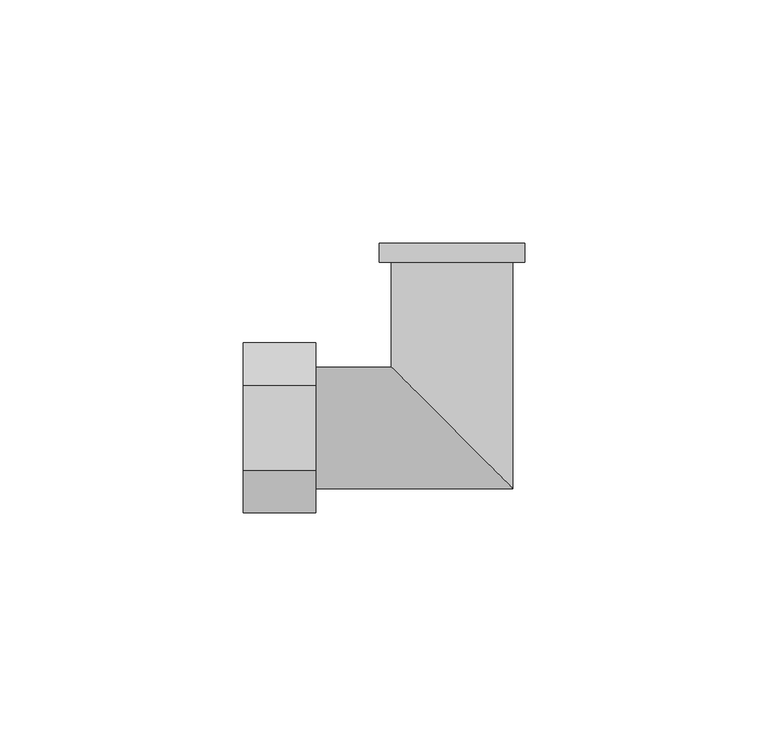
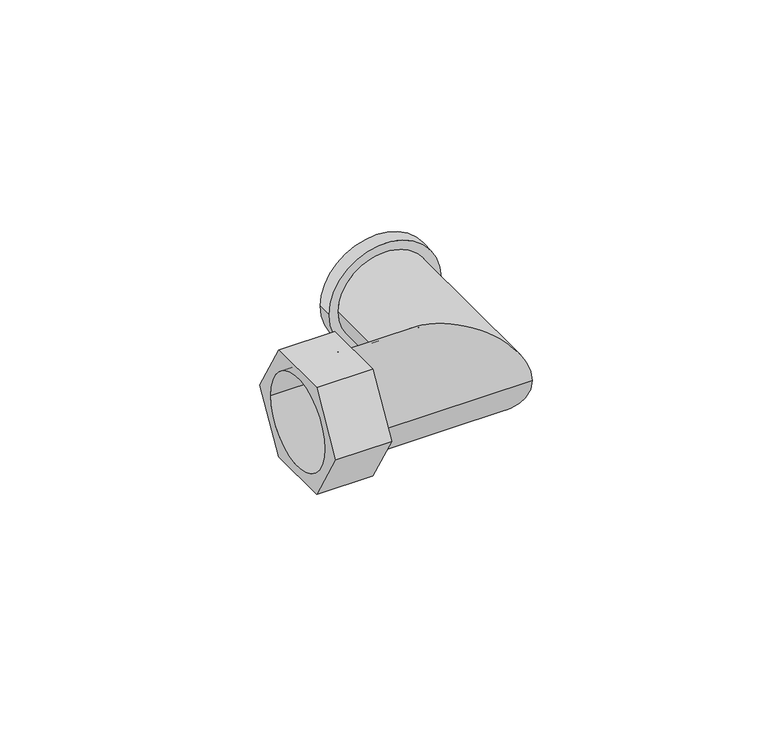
"""IFC4 building model written with IfcOpenShell, lengths in millimetres: pipe fitting geometry, БИР ПЕКС_КМП_Угольник_Резьба_Наружная : Угольник с наружной резьбой_КМП."""

from ifc_helpers import new_model, si_unit, point, frame, origin, origin_2d, place, context, project, spatial, polyline, circle_curve, ellipse_curve, trimmed, segment, composite_curve, outline, extrude, source, transform, mapped, element, save
from ifc_brep_helpers import plane_surface, cylinder_surface, revolved_surface, advanced_brep


def pipe_fitting_07bd043f(model_context):
    return source(origin(), model_context, "Body", "SolidModel", [
        extrude(outline(polyline([(-8.75, -15.1554446), (-17.5, 0.0), (-8.75, 15.1554446), (8.75, 15.1554446), (17.5, 0.0), (8.75, -15.1554446), (-8.75, -15.1554446)]), holes=[composite_curve([segment(trimmed(circle_curve(origin_2d(), 12.5), [point((-12.5, 0.0))], [point((12.5, 0.0))], True, "CARTESIAN"), True, "CONTINUOUS"), segment(trimmed(circle_curve(origin_2d(), 12.5), [point((12.5, 0.0))], [point((-12.5, 0.0))], True, "CARTESIAN"), True, "CONTINUOUS")], self_intersect=False)]), frame((-43.0, 0.0, 0.0), z_axis=(1.0, 0.0, 0.0), x_axis=(0.0, 1.0, 0.0)), (0.0, 0.0, 1.0), 15.0),
        advanced_brep(
        [(-28.0, -12.5, 0.0), (-28.0, 12.5, 0.0), (-28.0, -12.0, 0.0), (-28.0, 12.0, 0.0), (12.5, -12.5, 0.0), (-12.5, 12.5, 0.0), (-15.0, 38.0, 0.0), (15.0, 38.0, 0.0), (12.0, 38.0, 0.0), (-12.0, 38.0, 0.0), (12.5, 34.0, 0.0), (-12.5, 34.0, 0.0), (-15.0, 34.0, 0.0), (15.0, 34.0, 0.0), (12.0, -12.0, 0.0), (-12.0, 12.0, 0.0), (-12.0, 34.0, 0.0), (12.0, 34.0, 0.0)],
        [
            (0, 1, circle_curve(frame((-28.0, 0.0, 0.0), z_axis=(-1.0, 0.0, 0.0), x_axis=(0.0, 1.0, 0.0)), 12.5)),
            (1, 0, circle_curve(frame((-28.0, 0.0, 0.0), z_axis=(-1.0, 0.0, 0.0), x_axis=(0.0, 1.0, 0.0)), 12.5)),
            (2, 3, circle_curve(frame((-28.0, 0.0, 0.0), z_axis=(1.0, 0.0, 0.0), x_axis=(0.0, 1.0, 0.0)), 12.0)),
            (3, 2, circle_curve(frame((-28.0, 0.0, 0.0), z_axis=(1.0, 0.0, 0.0), x_axis=(0.0, 1.0, 0.0)), 12.0)),
            (0, 4),
            (4, 5, ellipse_curve(frame((0.0, 0.0, 0.0), z_axis=(-0.7071067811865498, -0.7071067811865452, 0.0), x_axis=(-0.7071067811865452, 0.7071067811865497, 0.0)), 17.6776695, 12.5)),
            (5, 1),
            (5, 4, ellipse_curve(frame((0.0, 0.0, 0.0), z_axis=(-0.7071067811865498, -0.7071067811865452, 0.0), x_axis=(-0.7071067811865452, 0.7071067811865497, 0.0)), 17.6776695, 12.5)),
            (6, 7, circle_curve(frame((0.0, 38.0, 0.0), z_axis=(0.0, 1.0, 0.0), x_axis=(1.0, 0.0, 0.0)), 15.0)),
            (7, 6, circle_curve(frame((0.0, 38.0, 0.0), z_axis=(0.0, 1.0, 0.0), x_axis=(1.0, 0.0, 0.0)), 15.0)),
            (8, 9, circle_curve(frame((0.0, 38.0, 0.0), z_axis=(0.0, -1.0, 0.0), x_axis=(-1.0, 0.0, 0.0)), 12.0)),
            (9, 8, circle_curve(frame((0.0, 38.0, 0.0), z_axis=(0.0, -1.0, 0.0), x_axis=(-1.0, 0.0, 0.0)), 12.0)),
            (4, 10),
            (10, 11, circle_curve(frame((0.0, 34.0, 0.0), z_axis=(0.0, -1.0, 0.0), x_axis=(-1.0, 0.0, 0.0)), 12.5)),
            (11, 5),
            (11, 10, circle_curve(frame((0.0, 34.0, 0.0), z_axis=(0.0, -1.0, 0.0), x_axis=(-1.0, 0.0, 0.0)), 12.5)),
            (12, 13, circle_curve(frame((0.0, 34.0, 0.0), z_axis=(0.0, -1.0, 0.0), x_axis=(1.0, 0.0, 0.0)), 15.0)),
            (13, 12, circle_curve(frame((0.0, 34.0, 0.0), z_axis=(0.0, -1.0, 0.0), x_axis=(1.0, 0.0, 0.0)), 15.0)),
            (12, 6),
            (7, 13),
            (2, 14),
            (14, 15, ellipse_curve(frame((0.0, 0.0, 0.0), z_axis=(0.7071067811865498, 0.7071067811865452, 0.0), x_axis=(0.7071067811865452, -0.7071067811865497, 0.0)), 16.9705627, 12.0)),
            (15, 3),
            (15, 14, ellipse_curve(frame((0.0, 0.0, 0.0), z_axis=(0.7071067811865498, 0.7071067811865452, 0.0), x_axis=(0.7071067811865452, -0.7071067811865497, 0.0)), 16.9705627, 12.0)),
            (9, 16),
            (16, 15),
            (14, 17),
            (17, 8),
        ],
        [
            plane_surface(frame((-28.0, 0.0, 0.0), z_axis=(-1.0, 0.0, 0.0), x_axis=(0.0, 0.0, 1.0))),
            cylinder_surface(frame((-28.0, 0.0, 0.0), z_axis=(-1.0, 0.0, 0.0), x_axis=(0.0, 1.0, 0.0)), 12.5),
            plane_surface(frame((0.0, 38.0, 0.0), z_axis=(0.0, 1.0, 0.0), x_axis=(0.0, 0.0, 1.0))),
            cylinder_surface(frame((0.0, 0.0, 0.0), z_axis=(0.0, -1.0, 0.0), x_axis=(-1.0, 0.0, 0.0)), 12.5),
            plane_surface(frame((15.0, 34.0, 0.0), z_axis=(0.0, -1.0, 0.0), x_axis=(0.0, 0.0, 1.0))),
            cylinder_surface(frame((0.0, 38.0, 0.0), z_axis=(0.0, -1.0, 0.0), x_axis=(1.0, 0.0, 0.0)), 15.0),
            revolved_surface(polyline([(12.0, 12.0, 0.0), (-28.0, 12.0, 0.0)]), (-28.0, 0.0, 0.0), (1.0, 0.0, 0.0)),
            revolved_surface(polyline([(-12.0, 38.0, 0.0), (-12.0, -12.0, 0.0)]), (0.0, 0.0, 0.0), (0.0, 1.0, 0.0)),
        ],
        [
            (0, [[1, 2], [3, 4]]),
            (1, [[-1, 5, 6, 7]]),
            (1, [[-2, -7, 8, -5]]),
            (2, [[9, 10], [11, 12]]),
            (3, [[-6, 13, 14, 15]]),
            (3, [[-8, -15, 16, -13]]),
            (4, [[17, 18], [-14, -16]]),
            (5, [[-17, 19, -10, 20]]),
            (5, [[-18, -20, -9, -19]]),
            (6, [[-3, 21, 22, 23]]),
            (6, [[-4, -23, 24, -21]]),
            (7, [[-12, 25, 26, -22, 27, 28]]),
            (7, [[-11, -28, -27, -24, -26, -25]]),
        ],
    ),
    ])


if __name__ == "__main__":
    model = new_model("IFC4")
    model_context = context("Model", 3, world=origin())
    ifc_project = project(units=[si_unit("LENGTHUNIT", "METRE", prefix="MILLI")], contexts=[model_context])
    site = spatial("IfcSite", under=ifc_project)
    building = spatial("IfcBuilding", under=site)
    placement = place(None, origin())
    pipe_fitting_shape = pipe_fitting_07bd043f(model_context)
    element("IfcPipeFitting", 1, ObjectType="БИР ПЕКС_КМП_Угольник_Резьба_Наружная : Угольник с наружной резьбой_КМП", at=placement, inside=building, context=model_context, shape_type="MappedRepresentation", body=[
        mapped(pipe_fitting_shape, transform((0.0, 0.0, 0.0), x_axis=(1.0, 0.0, 0.0), y_axis=(0.0, 1.0, 0.0), z_axis=(0.0, 0.0, 1.0))),
    ])
    save(model, "model.ifc")
